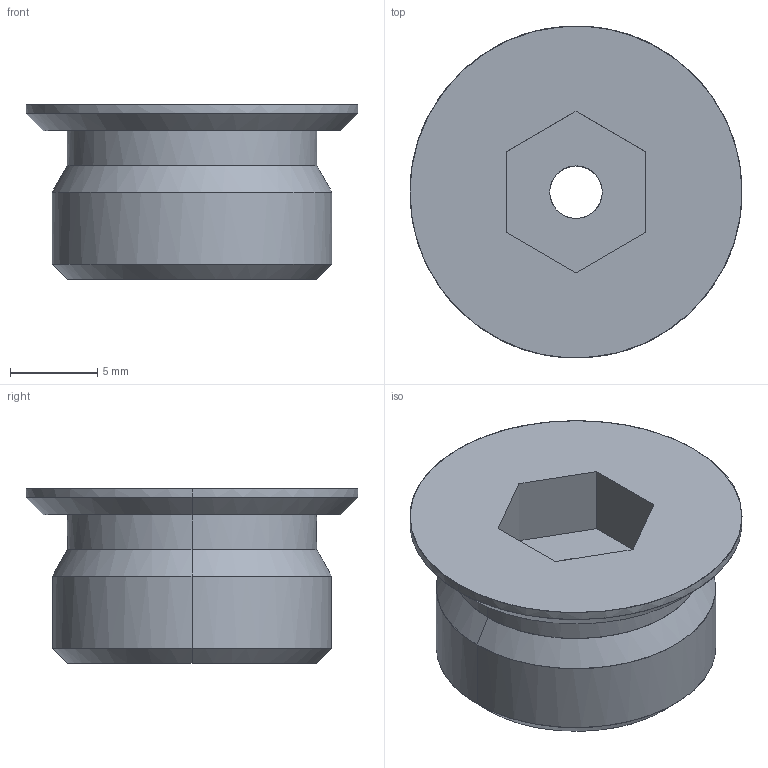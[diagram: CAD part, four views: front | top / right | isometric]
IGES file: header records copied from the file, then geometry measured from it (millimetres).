
Global section: file name: E:\UnigraphicsGraphicData\MISUMI_PRESS-PARTS\IGES\3d_mswzsh16-10_00501_r00.igs; native system: NX V5.0; preprocessor: UGS NX IGES V5.0; author: MISUMI; date: 20110105.161531; units: millimetre
Bounding box: 19 x 19 x 10 mm (x, y, z)
Surface area: 1213.3 mm2 (no closed solid volume)
Topology: 0 solids, 0 shells, 24 faces, 140 edges, 140 vertices
Faces by surface type: bspline 24
